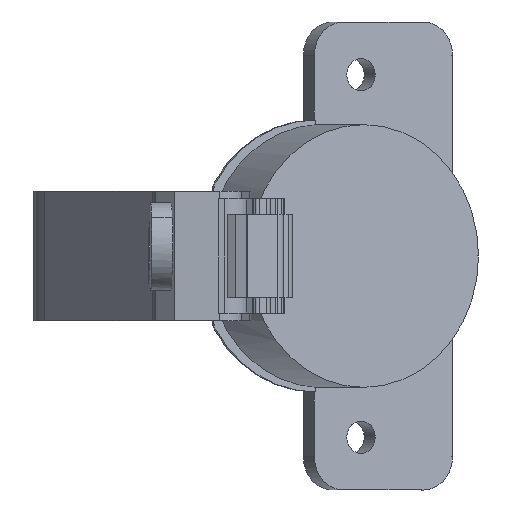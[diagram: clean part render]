
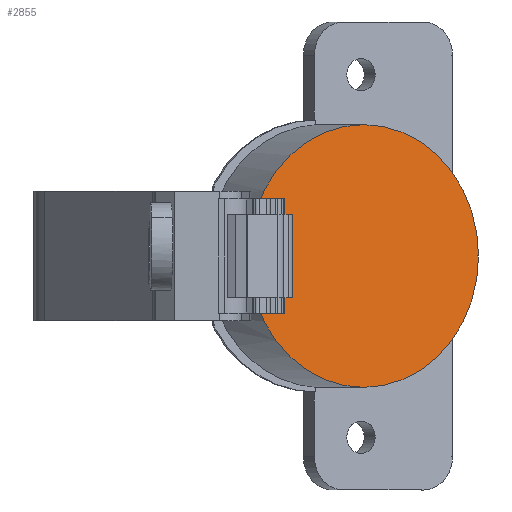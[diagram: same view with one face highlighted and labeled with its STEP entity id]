
A CAD part, left-side view. The second image highlights one B-rep face of the part: STEP entity #2855.
In plain terms, the highlighted planar face has unit normal (-0.873, -0.487, 0).
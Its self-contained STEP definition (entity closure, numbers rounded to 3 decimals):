
#25 = CARTESIAN_POINT ( 'NONE',  ( 11.549, -9.347, 0. ) ) ;
#362 = VERTEX_POINT ( 'NONE', #5018 ) ;
#516 = EDGE_CURVE ( 'NONE', #3106, #362, #3814, .T. ) ;
#739 = DIRECTION ( 'NONE',  ( 0.487, -0.873, 0. ) ) ;
#926 = ORIENTED_EDGE ( 'NONE', *, *, #516, .T. ) ;
#1136 = DIRECTION ( 'NONE',  ( -0.873, -0.487, 0. ) ) ;
#1235 = AXIS2_PLACEMENT_3D ( 'NONE', #4789, #1136, #739 ) ;
#1240 = ORIENTED_EDGE ( 'NONE', *, *, #3588, .T. ) ;
#1525 = EDGE_LOOP ( 'NONE', ( #1240, #926 ) ) ;
#2262 = CIRCLE ( 'NONE', #1235, 17.4 ) ;
#2516 = DIRECTION ( 'NONE',  ( 0.487, -0.873, 0. ) ) ;
#2538 = AXIS2_PLACEMENT_3D ( 'NONE', #4361, #4311, #5104 ) ;
#2569 = CARTESIAN_POINT ( 'NONE',  ( 20.022, -24.545, 0. ) ) ;
#2855 = ADVANCED_FACE ( 'NONE', ( #2919 ), #3768, .T. ) ;
#2919 = FACE_OUTER_BOUND ( 'NONE', #1525, .T. ) ;
#3040 = AXIS2_PLACEMENT_3D ( 'NONE', #2569, #4186, #2516 ) ;
#3106 = VERTEX_POINT ( 'NONE', #25 ) ;
#3588 = EDGE_CURVE ( 'NONE', #362, #3106, #2262, .T. ) ;
#3768 = PLANE ( 'NONE',  #3040 ) ;
#3814 = CIRCLE ( 'NONE', #2538, 17.4 ) ;
#4186 = DIRECTION ( 'NONE',  ( -0.873, -0.487, 0. ) ) ;
#4311 = DIRECTION ( 'NONE',  ( -0.873, -0.487, 0. ) ) ;
#4361 = CARTESIAN_POINT ( 'NONE',  ( 20.022, -24.545, 0. ) ) ;
#4789 = CARTESIAN_POINT ( 'NONE',  ( 20.022, -24.545, 0. ) ) ;
#5018 = CARTESIAN_POINT ( 'NONE',  ( 28.495, -39.743, 0. ) ) ;
#5104 = DIRECTION ( 'NONE',  ( 0.487, -0.873, 0. ) ) ;
